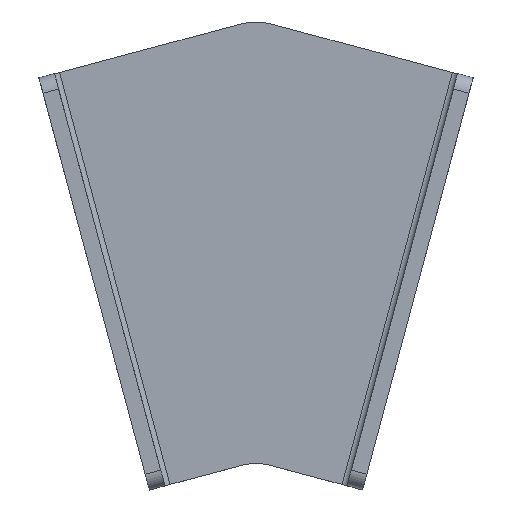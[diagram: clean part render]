
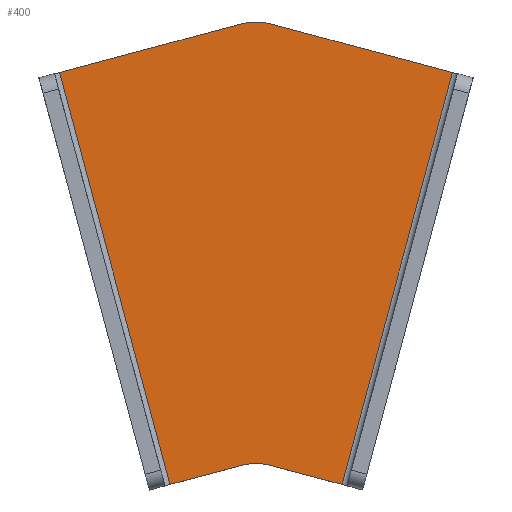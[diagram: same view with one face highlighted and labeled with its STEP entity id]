
A CAD part, top view. The second image highlights one B-rep face of the part: STEP entity #400.
In plain terms, the highlighted planar face has unit normal (0, 0, 1).
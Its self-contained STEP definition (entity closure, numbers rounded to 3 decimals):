
#10 = ORIENTED_EDGE ( 'NONE', *, *, #1394, .T. ) ;
#17 = VECTOR ( 'NONE', #821, 1000. ) ;
#19 = VECTOR ( 'NONE', #428, 1000. ) ;
#49 = VECTOR ( 'NONE', #1408, 1000. ) ;
#54 = CARTESIAN_POINT ( 'NONE',  ( -20.706, 77.274, 3. ) ) ;
#69 = AXIS2_PLACEMENT_3D ( 'NONE', #1090, #864, #192 ) ;
#88 = CARTESIAN_POINT ( 'NONE',  ( 56.842, 78.309, 3. ) ) ;
#124 = VECTOR ( 'NONE', #503, 1000. ) ;
#129 = EDGE_CURVE ( 'NONE', #1155, #718, #1223, .T. ) ;
#131 = VECTOR ( 'NONE', #1061, 1000. ) ;
#153 = ORIENTED_EDGE ( 'NONE', *, *, #129, .T. ) ;
#174 = LINE ( 'NONE', #1332, #1337 ) ;
#190 = CARTESIAN_POINT ( 'NONE',  ( 17.412, 87.488, 3. ) ) ;
#192 = DIRECTION ( 'NONE',  ( 1., 0., 0. ) ) ;
#218 = EDGE_CURVE ( 'NONE', #1186, #538, #404, .T. ) ;
#254 = ORIENTED_EDGE ( 'NONE', *, *, #1217, .T. ) ;
#266 = LINE ( 'NONE', #1220, #19 ) ;
#273 = CARTESIAN_POINT ( 'NONE',  ( 36.136, 1.035, 3. ) ) ;
#312 = EDGE_CURVE ( 'NONE', #718, #1186, #1200, .T. ) ;
#323 = DIRECTION ( 'NONE',  ( 0., 0., -1. ) ) ;
#325 = EDGE_CURVE ( 'NONE', #1389, #717, #266, .T. ) ;
#334 = ORIENTED_EDGE ( 'NONE', *, *, #218, .T. ) ;
#390 = CARTESIAN_POINT ( 'NONE',  ( 60.706, 77.274, 3. ) ) ;
#400 = ADVANCED_FACE ( 'NONE', ( #789 ), #1076, .T. ) ;
#404 = LINE ( 'NONE', #664, #124 ) ;
#428 = DIRECTION ( 'NONE',  ( 0.259, -0.966, 0. ) ) ;
#445 = CIRCLE ( 'NONE', #1120, 10. ) ;
#447 = VERTEX_POINT ( 'NONE', #190 ) ;
#455 = LINE ( 'NONE', #390, #131 ) ;
#477 = CARTESIAN_POINT ( 'NONE',  ( 20., 77.828, 3. ) ) ;
#484 = CARTESIAN_POINT ( 'NONE',  ( 3.864, 1.035, 3. ) ) ;
#496 = VERTEX_POINT ( 'NONE', #1433 ) ;
#503 = DIRECTION ( 'NONE',  ( 0.259, 0.966, 0. ) ) ;
#538 = VERTEX_POINT ( 'NONE', #88 ) ;
#540 = CARTESIAN_POINT ( 'NONE',  ( -16.842, 78.309, 3. ) ) ;
#546 = DIRECTION ( 'NONE',  ( 0.966, 0.259, 0. ) ) ;
#569 = EDGE_LOOP ( 'NONE', ( #1366, #334, #254, #1019, #1013, #1042, #10, #153 ) ) ;
#586 = DIRECTION ( 'NONE',  ( 1., 0., 0. ) ) ;
#622 = CARTESIAN_POINT ( 'NONE',  ( 22.588, 4.665, 3. ) ) ;
#633 = CARTESIAN_POINT ( 'NONE',  ( 40., 0., 3. ) ) ;
#664 = CARTESIAN_POINT ( 'NONE',  ( 33.457, -8.965, 3. ) ) ;
#706 = CARTESIAN_POINT ( 'NONE',  ( 17.412, 4.665, 3. ) ) ;
#717 = VERTEX_POINT ( 'NONE', #484 ) ;
#718 = VERTEX_POINT ( 'NONE', #622 ) ;
#789 = FACE_OUTER_BOUND ( 'NONE', #569, .T. ) ;
#821 = DIRECTION ( 'NONE',  ( -0.966, -0.259, 0. ) ) ;
#864 = DIRECTION ( 'NONE',  ( 0., 0., 1. ) ) ;
#991 = CARTESIAN_POINT ( 'NONE',  ( 20., -4.994, 3. ) ) ;
#1005 = AXIS2_PLACEMENT_3D ( 'NONE', #991, #323, #1105 ) ;
#1013 = ORIENTED_EDGE ( 'NONE', *, *, #1142, .T. ) ;
#1019 = ORIENTED_EDGE ( 'NONE', *, *, #1062, .T. ) ;
#1042 = ORIENTED_EDGE ( 'NONE', *, *, #325, .T. ) ;
#1061 = DIRECTION ( 'NONE',  ( -0.966, 0.259, 0. ) ) ;
#1062 = EDGE_CURVE ( 'NONE', #496, #447, #445, .T. ) ;
#1076 = PLANE ( 'NONE',  #69 ) ;
#1090 = CARTESIAN_POINT ( 'NONE',  ( 0., 0., 3. ) ) ;
#1105 = DIRECTION ( 'NONE',  ( 1., 0., 0. ) ) ;
#1120 = AXIS2_PLACEMENT_3D ( 'NONE', #477, #1261, #586 ) ;
#1130 = LINE ( 'NONE', #54, #17 ) ;
#1142 = EDGE_CURVE ( 'NONE', #447, #1389, #1130, .T. ) ;
#1155 = VERTEX_POINT ( 'NONE', #706 ) ;
#1186 = VERTEX_POINT ( 'NONE', #273 ) ;
#1200 = LINE ( 'NONE', #633, #49 ) ;
#1217 = EDGE_CURVE ( 'NONE', #538, #496, #455, .T. ) ;
#1220 = CARTESIAN_POINT ( 'NONE',  ( 3.864, 1.035, 3. ) ) ;
#1223 = CIRCLE ( 'NONE', #1005, 10. ) ;
#1261 = DIRECTION ( 'NONE',  ( 0., 0., 1. ) ) ;
#1332 = CARTESIAN_POINT ( 'NONE',  ( 0., 0., 3. ) ) ;
#1337 = VECTOR ( 'NONE', #546, 1000. ) ;
#1366 = ORIENTED_EDGE ( 'NONE', *, *, #312, .T. ) ;
#1389 = VERTEX_POINT ( 'NONE', #540 ) ;
#1394 = EDGE_CURVE ( 'NONE', #717, #1155, #174, .T. ) ;
#1408 = DIRECTION ( 'NONE',  ( 0.966, -0.259, 0. ) ) ;
#1433 = CARTESIAN_POINT ( 'NONE',  ( 22.588, 87.488, 3. ) ) ;
